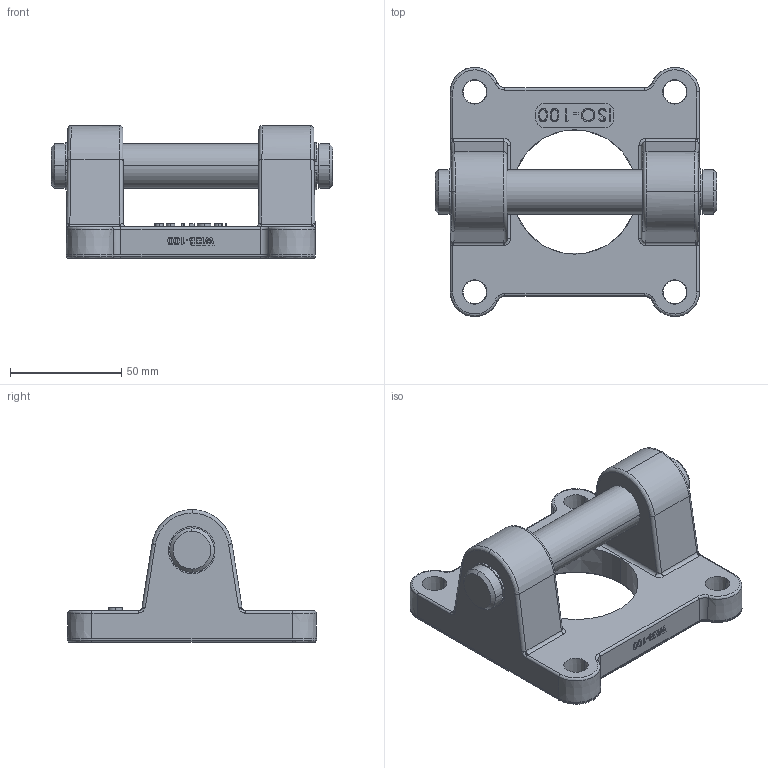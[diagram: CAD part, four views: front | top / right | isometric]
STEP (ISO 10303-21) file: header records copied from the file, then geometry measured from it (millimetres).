
FILE_DESCRIPTION (( 'STEP AP214' ), '1' );
FILE_NAME ('WEB-100 (3D).STEP', '2019-10-31T09:45:21', ( '' ), ( '' ), 'SwSTEP 2.0', 'SolidWorks 2016', '' );
FILE_SCHEMA (( 'AUTOMOTIVE_DESIGN' ));
Length unit declared in the file: millimetre
Products named in the file (2): Group1^WEB-100 (3D); WEB-100 (3D)
Assembly tree (1 placements, depth 2):
  WEB-100 (3D)
    Group1^WEB-100 (3D)
Bounding box: 126.5 x 112 x 59.59 mm (x, y, z)
Volume: 191668.6 mm3; surface area: 51116.1 mm2
Topology: 4 solids, 4 shells, 583 faces, 1417 edges, 877 vertices
Faces by surface type: plane 220, bspline 206, cylinder 121, cone 36
Entity records: 28756 total; most frequent: CARTESIAN_POINT 14302, ORIENTED_EDGE 2826, DIRECTION 2158, EDGE_CURVE 1413, VERTEX_POINT 877, VECTOR 756, LINE 756, AXIS2_PLACEMENT_3D 701
